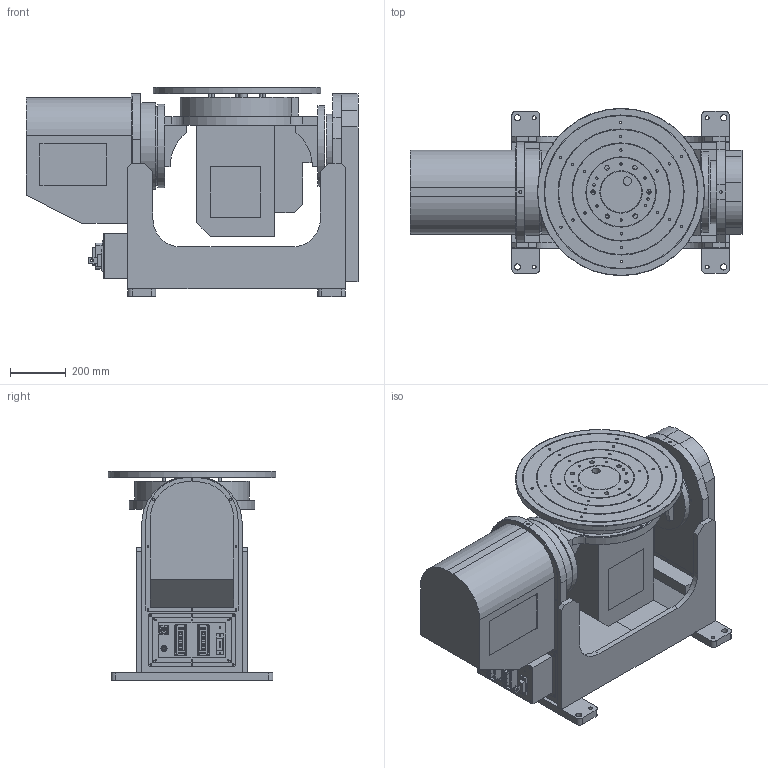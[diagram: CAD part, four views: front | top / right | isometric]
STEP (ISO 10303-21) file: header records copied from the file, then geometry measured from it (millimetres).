
FILE_DESCRIPTION (( 'STEP AP203' ), '1' );
FILE_NAME ('AUT-DWP-P-500-X.STEP', '2020-02-28T06:11:01', ( 'Microsoft' ), ( 'Microsoft' ), 'SwSTEP 2.0', 'SolidWorks 2016', '' );
FILE_SCHEMA (( 'CONFIG_CONTROL_DESIGN' ));
Length unit declared in the file: millimetre
Products named in the file (1): AUT-DWP-P-500-X
Bounding box: 1190 x 599.99 x 750 mm (x, y, z)
Surface area: 5674756 mm2 (no closed solid volume)
Topology: 0 solids, 32 shells, 460 faces, 1617 edges, 1202 vertices
Faces by surface type: plane 246, cylinder 203, torus 5, cone 4, bspline 2
Full cylindrical faces by diameter (mm): 2.175 x1, 3.2 x2, 3.5 x18, 4.4 x4, 5 x1, 5.5 x4, 6 x2, 6.6 x37, 6.8 x4, 8.5 x24, 10 x2, 10.2 x2, 11 x1, 12 x3, 13 x4, 14 x4, 16 x6, 17.5 x1, 19.6 x1, 20 x1, 22 x4, 30 x1, 226 x1, 280 x1, 290 x1, 300 x1, 310 x1, 600 x1
Entity records: 18326 total; most frequent: CARTESIAN_POINT 4433, DIRECTION 2906, ORIENTED_EDGE 2250, EDGE_CURVE 1430, VERTEX_POINT 1159, AXIS2_PLACEMENT_3D 1056, EDGE_LOOP 919, LINE 794
